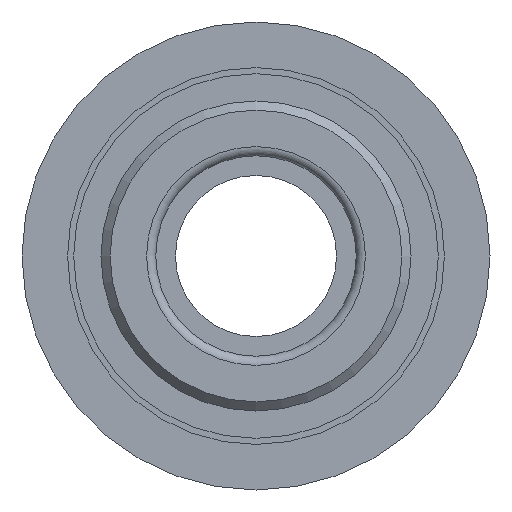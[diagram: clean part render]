
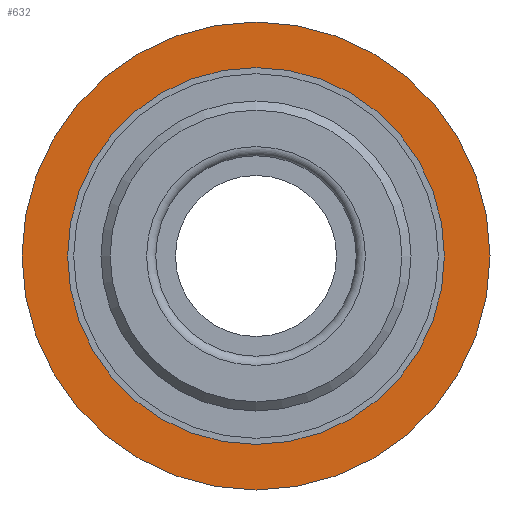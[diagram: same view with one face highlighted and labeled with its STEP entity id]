
A CAD part, left-side view. The second image highlights one B-rep face of the part: STEP entity #632.
In plain terms, the highlighted planar face has unit normal (-1, 0, 0).
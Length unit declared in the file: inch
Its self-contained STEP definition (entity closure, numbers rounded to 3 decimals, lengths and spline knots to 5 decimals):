
#27=PLANE('',#727);
#71=CIRCLE('',#665,0.21875);
#72=CIRCLE('',#667,0.21875);
#73=CIRCLE('',#669,0.21875);
#74=CIRCLE('',#671,0.21875);
#75=CIRCLE('',#673,0.21875);
#76=CIRCLE('',#675,0.21875);
#102=CIRCLE('',#726,0.43);
#193=ORIENTED_EDGE('',*,*,#287,.T.);
#194=ORIENTED_EDGE('',*,*,#284,.T.);
#195=ORIENTED_EDGE('',*,*,#281,.T.);
#196=ORIENTED_EDGE('',*,*,#278,.T.);
#197=ORIENTED_EDGE('',*,*,#275,.T.);
#198=ORIENTED_EDGE('',*,*,#272,.T.);
#199=ORIENTED_EDGE('',*,*,#329,.F.);
#272=EDGE_CURVE('',#345,#350,#71,.T.);
#275=EDGE_CURVE('',#351,#345,#72,.T.);
#278=EDGE_CURVE('',#353,#351,#73,.T.);
#281=EDGE_CURVE('',#355,#353,#74,.T.);
#284=EDGE_CURVE('',#357,#355,#75,.T.);
#287=EDGE_CURVE('',#350,#357,#76,.T.);
#329=EDGE_CURVE('',#393,#393,#102,.T.);
#345=VERTEX_POINT('',#950);
#350=VERTEX_POINT('',#968);
#351=VERTEX_POINT('',#975);
#353=VERTEX_POINT('',#987);
#355=VERTEX_POINT('',#999);
#357=VERTEX_POINT('',#1011);
#393=VERTEX_POINT('',#1171);
#479=EDGE_LOOP('',(#193,#194,#195,#196,#197,#198));
#480=EDGE_LOOP('',(#199));
#556=FACE_BOUND('',#479,.T.);
#557=FACE_BOUND('',#480,.T.);
#632=ADVANCED_FACE('',(#556,#557),#27,.T.);
#665=AXIS2_PLACEMENT_3D('',#969,#759,#760);
#667=AXIS2_PLACEMENT_3D('',#981,#763,#764);
#669=AXIS2_PLACEMENT_3D('',#993,#767,#768);
#671=AXIS2_PLACEMENT_3D('',#1005,#771,#772);
#673=AXIS2_PLACEMENT_3D('',#1017,#775,#776);
#675=AXIS2_PLACEMENT_3D('',#1028,#779,#780);
#726=AXIS2_PLACEMENT_3D('',#1170,#883,#884);
#727=AXIS2_PLACEMENT_3D('',#1172,#885,#886);
#759=DIRECTION('',(1.,0.,0.));
#760=DIRECTION('',(0.,0.,-1.));
#763=DIRECTION('',(1.,0.,0.));
#764=DIRECTION('',(0.,0.,-1.));
#767=DIRECTION('',(1.,0.,0.));
#768=DIRECTION('',(0.,0.,-1.));
#771=DIRECTION('',(1.,0.,0.));
#772=DIRECTION('',(0.,0.,-1.));
#775=DIRECTION('',(1.,0.,0.));
#776=DIRECTION('',(0.,0.,-1.));
#779=DIRECTION('',(1.,0.,0.));
#780=DIRECTION('',(0.,0.,-1.));
#883=DIRECTION('',(1.,0.,0.));
#884=DIRECTION('',(0.,0.,-1.));
#885=DIRECTION('',(-1.,0.,0.));
#886=DIRECTION('',(0.,0.,1.));
#950=CARTESIAN_POINT('',(1.336,-0.10938,-0.18944));
#968=CARTESIAN_POINT('',(1.336,0.10938,-0.18944));
#969=CARTESIAN_POINT('',(1.336,0.,0.));
#975=CARTESIAN_POINT('',(1.336,-0.21875,0.));
#981=CARTESIAN_POINT('',(1.336,0.,0.));
#987=CARTESIAN_POINT('',(1.336,-0.10938,0.18944));
#993=CARTESIAN_POINT('',(1.336,0.,0.));
#999=CARTESIAN_POINT('',(1.336,0.10938,0.18944));
#1005=CARTESIAN_POINT('',(1.336,0.,0.));
#1011=CARTESIAN_POINT('',(1.336,0.21875,0.));
#1017=CARTESIAN_POINT('',(1.336,0.,0.));
#1028=CARTESIAN_POINT('',(1.336,0.,0.));
#1170=CARTESIAN_POINT('',(1.336,0.,0.));
#1171=CARTESIAN_POINT('',(1.336,0.,-0.43));
#1172=CARTESIAN_POINT('',(1.336,0.43,0.));
